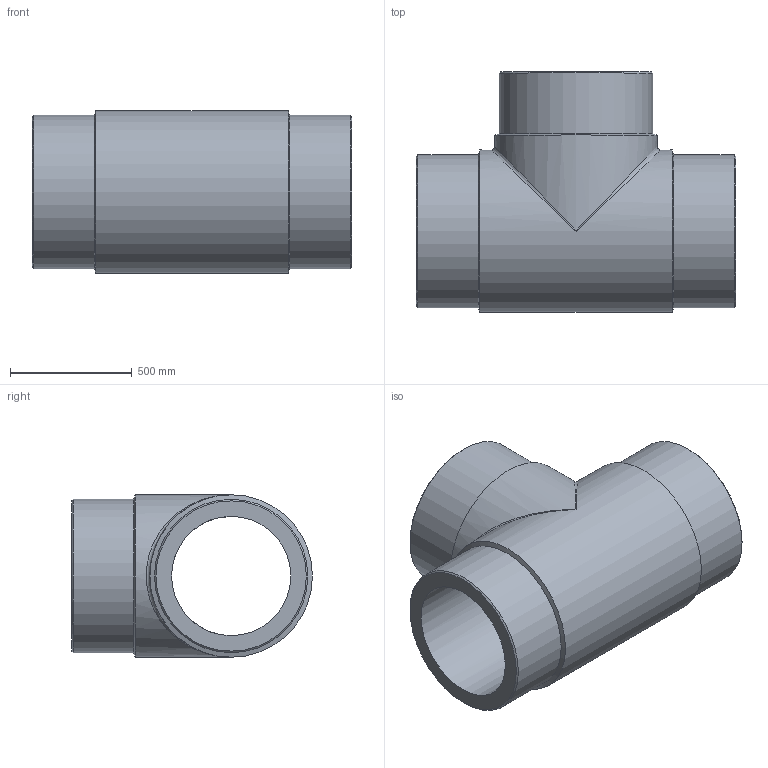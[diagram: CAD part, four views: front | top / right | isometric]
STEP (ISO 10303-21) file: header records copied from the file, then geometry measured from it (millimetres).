
FILE_DESCRIPTION(/* description */ ('Unknown'),/* implementation_level */ '2;1');
FILE_NAME(/* name */ 'TP630G',/* time_stamp */ '2023-01-24T17:12:00+01:00',/* author */ ('Unknown'),/* organization */ ('Unknown'),/* preprocessor_version */ 'ST-DEVELOPER v18.1',/* originating_system */ 'Solid Edge',/* authorisation */ 'Unknown');
FILE_SCHEMA (('AUTOMOTIVE_DESIGN {1 0 10303 214 3 1 1}'));
Length unit declared in the file: millimetre
Products named in the file (1): TP630G
Bounding box: 1312 x 990 x 668 mm (x, y, z)
Volume: 228402776 mm3; surface area: 6122804.6 mm2
Topology: 1 solids, 1 shells, 18 faces, 44 edges, 23 vertices
Faces by surface type: cylinder 7, cone 6, plane 3, bspline 2
Full cylindrical faces by diameter (mm): 490 x2, 630 x3, 668 x2
Entity records: 528 total; most frequent: CARTESIAN_POINT 171, DIRECTION 76, ORIENTED_EDGE 42, AXIS2_PLACEMENT_3D 38, EDGE_LOOP 36, FACE_BOUND 36, EDGE_CURVE 21, VERTEX_POINT 19
